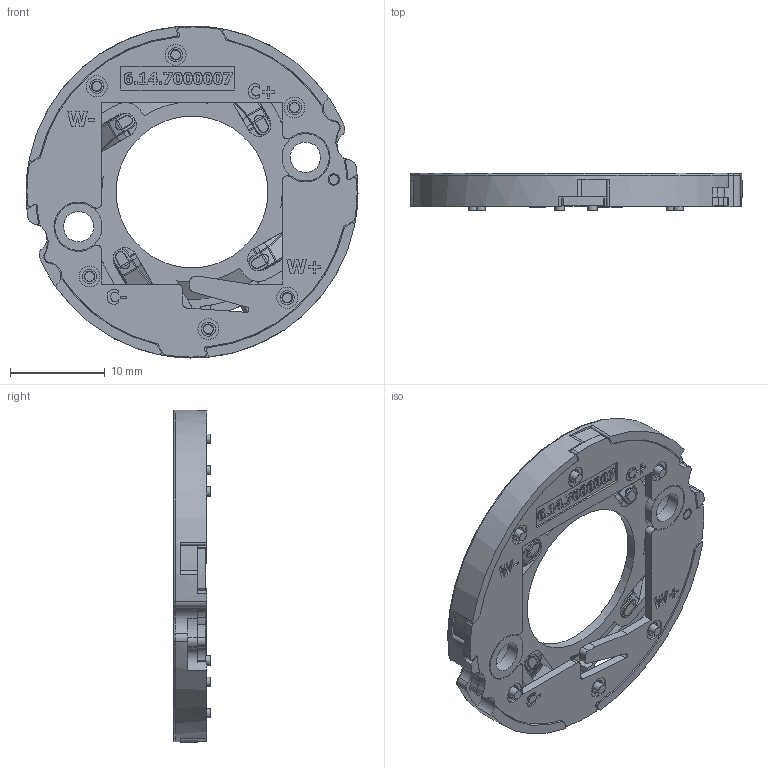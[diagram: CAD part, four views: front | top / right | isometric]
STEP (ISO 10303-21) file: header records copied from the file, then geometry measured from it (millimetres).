
FILE_DESCRIPTION(/* description */ (''),/* implementation_level */ '2;1');
FILE_NAME(/* name */ '\\Gqserver\工程内部共享\内部共享\湛钰成\GL-P1919H\to客户规格图\BXHD-1919-160规格图.stp',/* time_stamp */ '2024-09-20T10:09:47+08:00',/* author */ ('CS'),/* organization */ (''),/* preprocessor_version */ 'ST-DEVELOPER v18',/* originating_system */ 'Autodesk Inventor 2020',/* authorisation */ '');
FILE_SCHEMA (('AUTOMOTIVE_DESIGN { 1 0 10303 214 3 1 1 }'));
Length unit declared in the file: millimetre
Products named in the file (4): BXHD-1919-160规格图; P1919H-1（20240815）修改端子槽+修改卡灯杯处; SF4-1919-3 12-27; 1830-2G（规格图用）
Assembly tree (6 placements, depth 2):
  BXHD-1919-160规格图
    P1919H-1（20240815）修改端子槽+修改卡灯杯处
    SF4-1919-3 12-27
    1830-2G（规格图用）  x4
Bounding box: 35 x 3.9 x 35 mm (x, y, z)
Volume: 1809.8 mm3; surface area: 3712.5 mm2
Topology: 6 solids, 6 shells, 1501 faces, 3942 edges, 2562 vertices
Faces by surface type: plane 785, bspline 392, cylinder 259, cone 33, torus 32
Full cylindrical faces by diameter (mm): 1 x7, 1.1 x6, 1.2 x1, 1.5 x6, 2.1 x4, 2.2 x6, 3.2 x2, 6 x2, 16 x1
Entity records: 41614 total; most frequent: CARTESIAN_POINT 11796, ORIENTED_EDGE 6768, DIRECTION 5028, EDGE_CURVE 3384, VERTEX_POINT 2241, LINE 2146, VECTOR 2146, AXIS2_PLACEMENT_3D 1441
